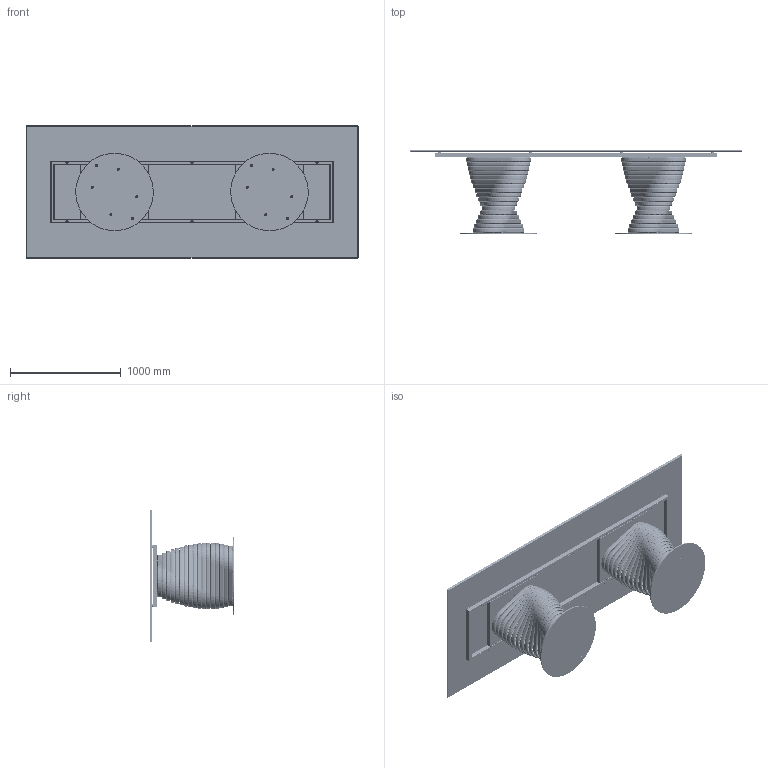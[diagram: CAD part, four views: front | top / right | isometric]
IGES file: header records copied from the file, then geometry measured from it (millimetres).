
Start section: SolidWorks IGES file using analytic representation for surfaces
Global section: file name: Y:\eforma\TECNICO\SOLIDWORKS\E-FORMA\1-TAVOLI\ROTOLO\02 parts\RO24C.IGS; native system: SolidWorks 2022; preprocessor: SolidWorks 2022; author: eforma.tech; date: 240807.151755; units: millimetre
Bounding box: 3000 x 758 x 1200 mm (x, y, z)
Volume: 81017825.8 mm3; surface area: 29051746.9 mm2
Topology: 187 solids, 187 shells, 2844 faces, 6688 edges, 4172 vertices
Faces by surface type: revolution 1664, plane 1180
